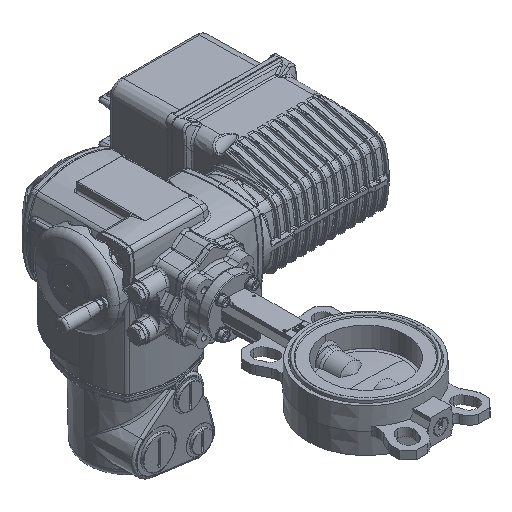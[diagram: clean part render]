
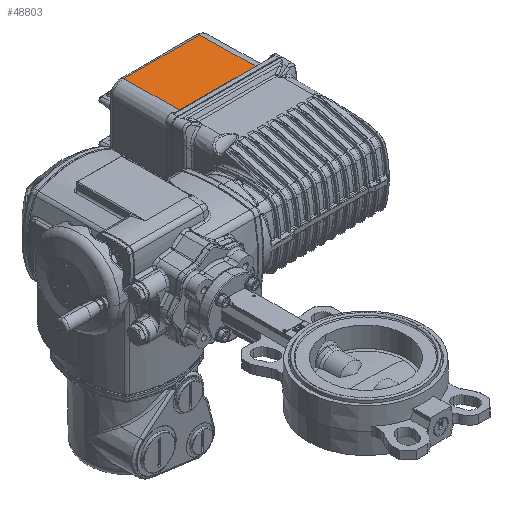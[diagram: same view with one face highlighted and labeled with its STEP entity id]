
A CAD part, isometric view. The second image highlights one B-rep face of the part: STEP entity #48803.
In plain terms, the highlighted planar face has unit normal (0, 0.018, 1).
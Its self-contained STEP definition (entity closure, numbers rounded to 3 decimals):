
#8257 = CARTESIAN_POINT ( 'NONE',  ( 119.5, 410.087, 51.602 ) ) ;
#17150 = DIRECTION ( 'NONE',  ( 1., 0., 0. ) ) ;
#25764 = PLANE ( 'NONE',  #171366 ) ;
#40426 = EDGE_CURVE ( 'NONE', #67751, #83070, #149778, .T. ) ;
#44976 = DIRECTION ( 'NONE',  ( 0., 0.017, 1. ) ) ;
#48803 = ADVANCED_FACE ( 'NONE', ( #90911 ), #25764, .T. ) ;
#67303 = DIRECTION ( 'NONE',  ( 0., -1., 0.017 ) ) ;
#67751 = VERTEX_POINT ( 'NONE', #172250 ) ;
#71155 = VECTOR ( 'NONE', #67303, 1000. ) ;
#83070 = VERTEX_POINT ( 'NONE', #162588 ) ;
#83296 = DIRECTION ( 'NONE',  ( 0., -1., 0.017 ) ) ;
#84718 = DIRECTION ( 'NONE',  ( 0., -1., 0.017 ) ) ;
#86034 = ORIENTED_EDGE ( 'NONE', *, *, #40426, .T. ) ;
#90911 = FACE_OUTER_BOUND ( 'NONE', #169591, .T. ) ;
#95417 = DIRECTION ( 'NONE',  ( -1., 0., 0. ) ) ;
#95769 = ORIENTED_EDGE ( 'NONE', *, *, #169326, .F. ) ;
#101729 = ORIENTED_EDGE ( 'NONE', *, *, #162037, .T. ) ;
#113045 = CARTESIAN_POINT ( 'NONE',  ( 210.5, 410.087, 51.602 ) ) ;
#121020 = VECTOR ( 'NONE', #95417, 1000. ) ;
#123925 = LINE ( 'NONE', #169811, #71155 ) ;
#126387 = VERTEX_POINT ( 'NONE', #113045 ) ;
#127810 = LINE ( 'NONE', #8257, #121020 ) ;
#128275 = CARTESIAN_POINT ( 'NONE',  ( 210.5, 330., 53. ) ) ;
#128415 = VECTOR ( 'NONE', #83296, 1000. ) ;
#136527 = CARTESIAN_POINT ( 'NONE',  ( 119.5, 410.087, 51.602 ) ) ;
#146330 = VERTEX_POINT ( 'NONE', #136527 ) ;
#149778 = LINE ( 'NONE', #177980, #179509 ) ;
#162037 = EDGE_CURVE ( 'NONE', #146330, #67751, #123925, .T. ) ;
#162588 = CARTESIAN_POINT ( 'NONE',  ( 210.5, 341.895, 52.792 ) ) ;
#167435 = LINE ( 'NONE', #171103, #128415 ) ;
#169326 = EDGE_CURVE ( 'NONE', #126387, #83070, #167435, .T. ) ;
#169591 = EDGE_LOOP ( 'NONE', ( #95769, #173697, #101729, #86034 ) ) ;
#169811 = CARTESIAN_POINT ( 'NONE',  ( 119.5, 330., 53. ) ) ;
#171103 = CARTESIAN_POINT ( 'NONE',  ( 210.5, 330., 53. ) ) ;
#171366 = AXIS2_PLACEMENT_3D ( 'NONE', #128275, #44976, #84718 ) ;
#171422 = EDGE_CURVE ( 'NONE', #126387, #146330, #127810, .T. ) ;
#172250 = CARTESIAN_POINT ( 'NONE',  ( 119.5, 341.895, 52.792 ) ) ;
#173697 = ORIENTED_EDGE ( 'NONE', *, *, #171422, .T. ) ;
#177980 = CARTESIAN_POINT ( 'NONE',  ( 210.5, 341.895, 52.792 ) ) ;
#179509 = VECTOR ( 'NONE', #17150, 1000. ) ;
